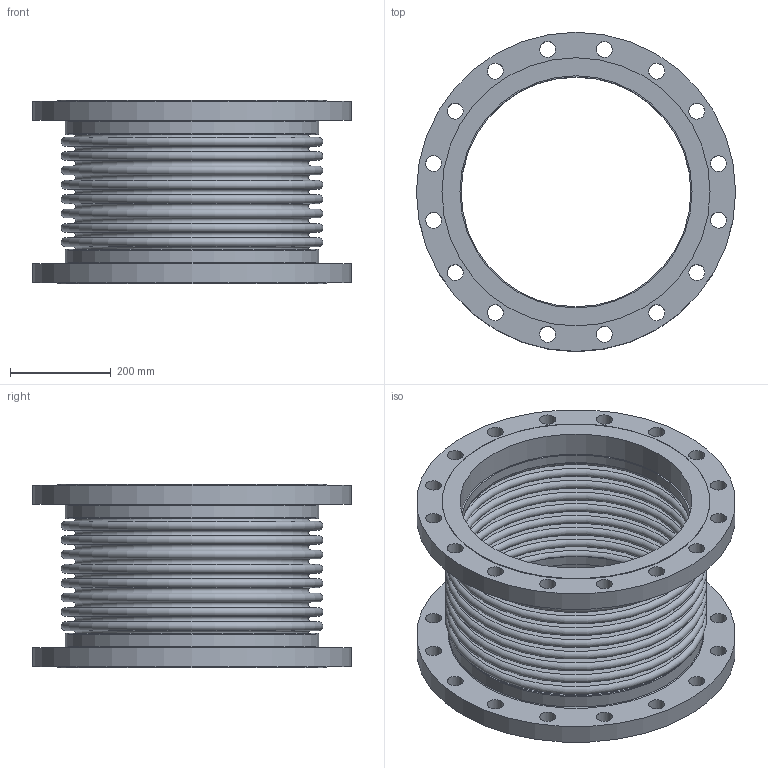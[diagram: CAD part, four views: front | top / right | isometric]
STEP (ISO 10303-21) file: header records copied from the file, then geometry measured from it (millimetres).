
FILE_DESCRIPTION(/* description */ ('EXPANSION JOINT,SINGLE, FLANGED ENDS,18 INCH','CAx-IF Rec.Pracs.---Representation and Presentation of Product Manufacturing Information (PMI)---4.0---2014-10-13'),/* implementation_level */ '2;1');
FILE_NAME(/* name */ 'US-18-8-300S-FLANGED ENDS.stp',/* time_stamp */ '2026-07-31T17:36:36-05:00',/* author */ ('Guadalupe'),/* organization */ (''),/* preprocessor_version */ 'ST-DEVELOPER v20.1',/* originating_system */ 'Autodesk Inventor 2026',/* authorisation */ '');
FILE_SCHEMA (('AP242_MANAGED_MODEL_BASED_3D_ENGINEERING_MIM_LF { 1 0 10303 442 2 1 4 }'));
Length unit declared in the file: inch
Products named in the file (3): 18-300S; 18-300S-02; 18-300S-01
Assembly tree (3 placements, depth 2):
  18-300S
    18-300S-02  x2
    18-300S-01
Bounding box: 635 x 635 x 364.74 mm (x, y, z)
Volume: 15370145.2 mm3; surface area: 3056871.2 mm2
Topology: 5 solids, 5 shells, 128 faces, 246 edges, 164 vertices
Faces by surface type: plane 46, cylinder 44, torus 38
Full cylindrical faces by diameter (mm): 31.75 x32, 457.2 x2, 461.772 x2, 463.296 x2, 504.952 x2, 533.4 x2, 635 x2
Entity records: 2870 total; most frequent: DIRECTION 578, CARTESIAN_POINT 425, ORIENTED_EDGE 360, AXIS2_PLACEMENT_3D 277, EDGE_CURVE 180, EDGE_LOOP 176, CIRCLE 156, VERTEX_POINT 120
